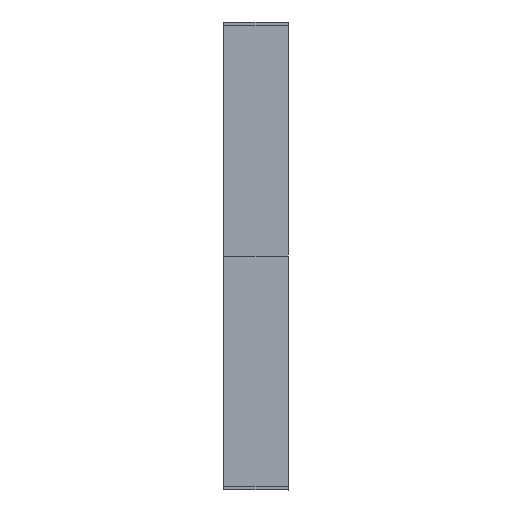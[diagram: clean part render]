
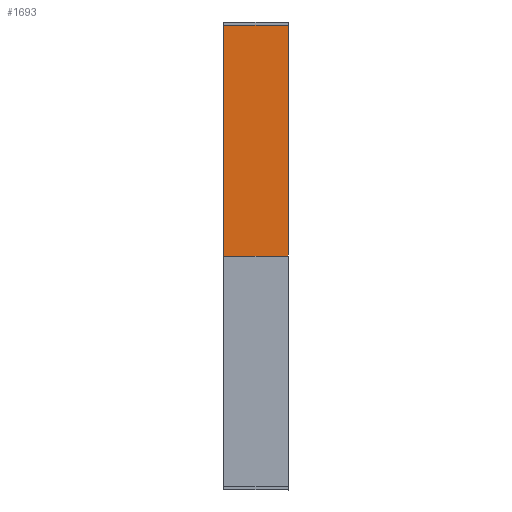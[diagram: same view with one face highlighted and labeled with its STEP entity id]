
A CAD part, left-side view. The second image highlights one B-rep face of the part: STEP entity #1693.
In plain terms, the highlighted planar face has unit normal (-1, 0, 0) as drawn and (0, -1, 0) by its records, which use the part's own axes.
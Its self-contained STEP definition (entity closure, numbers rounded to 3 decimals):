
#119 = EDGE_LOOP ( 'NONE', ( #733, #1348, #747, #1003 ) ) ;
#179 = VECTOR ( 'NONE', #450, 1000. ) ;
#189 = VERTEX_POINT ( 'NONE', #1317 ) ;
#232 = PLANE ( 'NONE',  #980 ) ;
#297 = EDGE_CURVE ( 'NONE', #2154, #1357, #1379, .T. ) ;
#315 = DIRECTION ( 'NONE',  ( 0., 0., 1. ) ) ;
#409 = DIRECTION ( 'NONE',  ( 0., 1., 0. ) ) ;
#450 = DIRECTION ( 'NONE',  ( -1., 0., 0. ) ) ;
#485 = EDGE_CURVE ( 'NONE', #1357, #1874, #1071, .T. ) ;
#486 = DIRECTION ( 'NONE',  ( 1., 0., 0. ) ) ;
#540 = CARTESIAN_POINT ( 'NONE',  ( 1040., 0., -290. ) ) ;
#586 = CARTESIAN_POINT ( 'NONE',  ( -1040., 0., 290. ) ) ;
#619 = CARTESIAN_POINT ( 'NONE',  ( -1040., 0., -290. ) ) ;
#637 = LINE ( 'NONE', #1840, #1330 ) ;
#733 = ORIENTED_EDGE ( 'NONE', *, *, #485, .F. ) ;
#747 = ORIENTED_EDGE ( 'NONE', *, *, #771, .F. ) ;
#771 = EDGE_CURVE ( 'NONE', #189, #2154, #637, .T. ) ;
#980 = AXIS2_PLACEMENT_3D ( 'NONE', #1274, #409, #1639 ) ;
#1003 = ORIENTED_EDGE ( 'NONE', *, *, #1375, .F. ) ;
#1035 = DIRECTION ( 'NONE',  ( 0., 0., -1. ) ) ;
#1071 = LINE ( 'NONE', #1586, #1370 ) ;
#1274 = CARTESIAN_POINT ( 'NONE',  ( 0., 0., 0. ) ) ;
#1317 = CARTESIAN_POINT ( 'NONE',  ( -1040., 0., -290. ) ) ;
#1330 = VECTOR ( 'NONE', #315, 1000. ) ;
#1348 = ORIENTED_EDGE ( 'NONE', *, *, #297, .F. ) ;
#1357 = VERTEX_POINT ( 'NONE', #1506 ) ;
#1370 = VECTOR ( 'NONE', #1035, 1000. ) ;
#1375 = EDGE_CURVE ( 'NONE', #1874, #189, #2204, .T. ) ;
#1379 = LINE ( 'NONE', #1691, #2180 ) ;
#1506 = CARTESIAN_POINT ( 'NONE',  ( 1040., 0., 290. ) ) ;
#1586 = CARTESIAN_POINT ( 'NONE',  ( 1040., 0., -290. ) ) ;
#1639 = DIRECTION ( 'NONE',  ( 0., 0., 1. ) ) ;
#1691 = CARTESIAN_POINT ( 'NONE',  ( -1040., 0., 290. ) ) ;
#1693 = ADVANCED_FACE ( 'NONE', ( #2120 ), #232, .F. ) ;
#1840 = CARTESIAN_POINT ( 'NONE',  ( -1040., 0., -290. ) ) ;
#1874 = VERTEX_POINT ( 'NONE', #540 ) ;
#2120 = FACE_OUTER_BOUND ( 'NONE', #119, .T. ) ;
#2154 = VERTEX_POINT ( 'NONE', #586 ) ;
#2180 = VECTOR ( 'NONE', #486, 1000. ) ;
#2204 = LINE ( 'NONE', #619, #179 ) ;
